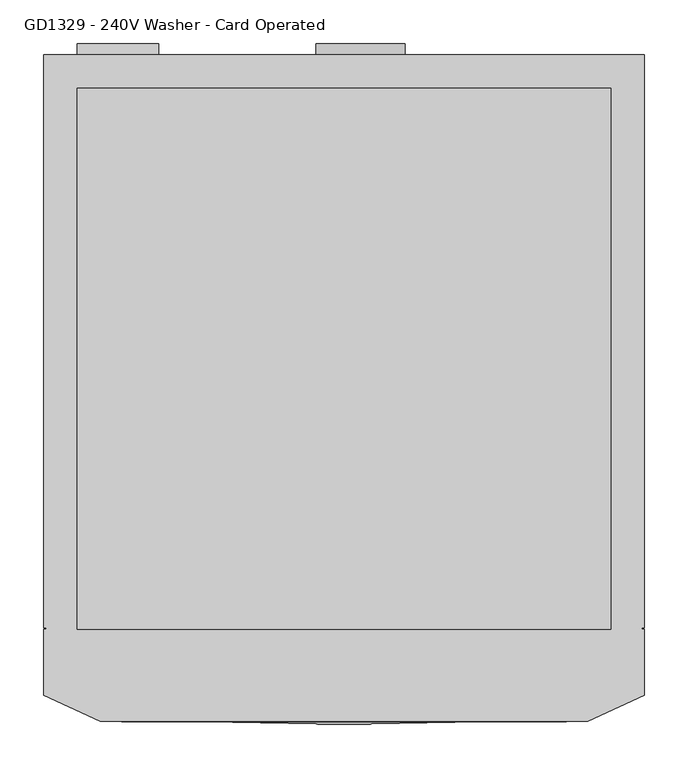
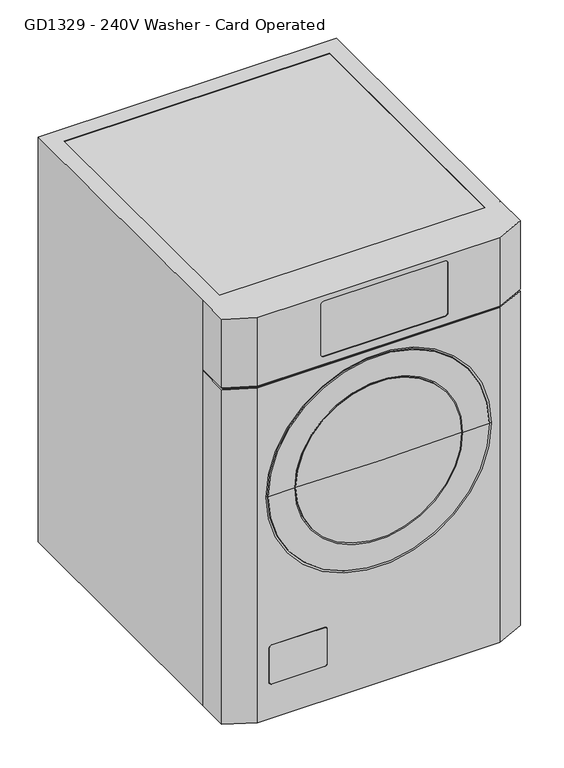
"""IFC4 building model written with IfcOpenShell, lengths in millimetres: proxy geometry, Laundry_Equipment-Dryer-Continental_Girbau-LG_Platinum-Vended-Electric : GD1329 - 240V Washer - Card Operated."""

from ifc_helpers import new_model, si_unit, point, frame, frame_2d, origin, place, context, project, spatial, polyline, circle_curve, ellipse_curve, trimmed, segment, composite_curve, outline, extrude, source, transform, mapped, element, save
from ifc_brep_helpers import plane_surface, cylinder_surface, revolved_surface, advanced_brep


def gd1329_240v_washer_card_operated_20cfbccd(model_context):
    return source(origin(), model_context, "Body", "SolidModel", [
        advanced_brep(
        [(190.5, -380.1381461, 539.7080427), (-190.5, -380.1381461, 539.7080427), (-190.5, -365.8618539, 539.7080427), (190.5, -365.8618539, 539.7080427), (0.0, -383.6523847, 539.7080427), (135.1388173, -229.2539921, 539.7080427), (-135.1388173, -229.2539921, 539.7080427), (0.0, -212.8515534, 539.7080427), (149.7734123, -238.738577, 539.7080427), (-149.7734123, -238.738577, 539.7080427)],
        [
            (0, 1, circle_curve(frame((0.0, -380.1381461, 539.7080427), z_axis=(0.0, 1.0, 0.0), x_axis=(-1.0, 0.0, 0.0)), 190.5)),
            (1, 2),
            (2, 3, circle_curve(frame((0.0, -365.8618539, 539.7080427), z_axis=(0.0, -1.0, 0.0), x_axis=(-1.0, 0.0, 0.0)), 190.5)),
            (3, 0),
            (1, 0, circle_curve(frame((0.0, -380.1381461, 539.7080427), z_axis=(0.0, 1.0, 0.0), x_axis=(-1.0, 0.0, 0.0)), 190.5)),
            (3, 2, circle_curve(frame((0.0, -365.8618539, 539.7080427), z_axis=(0.0, -1.0, 0.0), x_axis=(-1.0, 0.0, 0.0)), 190.5)),
            (4, 1, circle_curve(frame((-3.1754562, 4609.2855804, 539.7080427), z_axis=(0.0, 0.0, -1.0), x_axis=(-1.0, 0.0, 0.0)), 4992.9389749)),
            (0, 4, circle_curve(frame((3.1754562, 4609.2855804, 539.7080427), z_axis=(0.0, 0.0, -1.0), x_axis=(1.0, 0.0, 0.0)), 4992.9389749)),
            (5, 6, circle_curve(frame((0.0, -229.2539921, 539.7080427), z_axis=(0.0, 1.0, 0.0), x_axis=(-1.0, 0.0, 0.0)), 135.1388173)),
            (6, 7, circle_curve(frame((29.3530049, -1019.5913684, 539.7080427), z_axis=(0.0, 0.0, -1.0), x_axis=(-1.0, 0.0, 0.0)), 807.2736388)),
            (7, 5, circle_curve(frame((-29.3530049, -1019.5913684, 539.7080427), z_axis=(0.0, 0.0, -1.0), x_axis=(1.0, 0.0, 0.0)), 807.2736388)),
            (6, 5, circle_curve(frame((0.0, -229.2539921, 539.7080427), z_axis=(0.0, 1.0, 0.0), x_axis=(-1.0, 0.0, 0.0)), 135.1388173)),
            (8, 9, circle_curve(frame((0.0, -238.738577, 539.7080427), z_axis=(0.0, 1.0, 0.0), x_axis=(-1.0, 0.0, 0.0)), 149.7734123)),
            (9, 6, circle_curve(frame((-130.223398, -252.8712124, 539.7080427), z_axis=(0.0, 0.0, -1.0), x_axis=(-1.0, 0.0, 0.0)), 24.1233174)),
            (5, 8, circle_curve(frame((130.223398, -252.8712124, 539.7080427), z_axis=(0.0, 0.0, -1.0), x_axis=(1.0, 0.0, 0.0)), 24.1233174)),
            (9, 8, circle_curve(frame((0.0, -238.738577, 539.7080427), z_axis=(0.0, 1.0, 0.0), x_axis=(-1.0, 0.0, 0.0)), 149.7734123)),
            (2, 9, circle_curve(frame((24.3408368, -364.6051442, 539.7080427), z_axis=(0.0, 0.0, -1.0), x_axis=(-1.0, 0.0, 0.0)), 214.8445124)),
            (8, 3, circle_curve(frame((-24.3408368, -364.6051442, 539.7080427), z_axis=(0.0, 0.0, -1.0), x_axis=(1.0, 0.0, 0.0)), 214.8445124)),
        ],
        [
            cylinder_surface(frame((0.0, 1524.0, 539.7080427), z_axis=(0.0, -1.0, 0.0), x_axis=(-1.0, 0.0, 0.0)), 190.5),
            revolved_surface(trimmed(ellipse_curve(frame((-3.1754562, 4609.2855804, 539.7080427), z_axis=(0.0, 0.0, 1.0), x_axis=(-1.0, 0.0, 0.0)), 4992.9389749, 4992.9389749), [point((-190.5, -380.1381461, 539.7080427))], [point((0.0, -383.6523847, 539.7080427))], True, "CARTESIAN"), (0.0, 1524.0, 539.7080427), (0.0, -1.0, 0.0)),
            revolved_surface(trimmed(ellipse_curve(frame((29.3530049, -1019.5913684, 539.7080427), z_axis=(0.0, 0.0, 1.0), x_axis=(-1.0, 0.0, 0.0)), 807.2736388, 807.2736388), [point((0.0, -212.8515534, 539.7080427))], [point((-135.1388173, -229.2539921, 539.7080427))], True, "CARTESIAN"), (0.0, 1524.0, 539.7080427), (0.0, -1.0, 0.0)),
            revolved_surface(trimmed(ellipse_curve(frame((-130.223398, -252.8712124, 539.7080427), z_axis=(0.0, 0.0, 1.0), x_axis=(-1.0, 0.0, 0.0)), 24.1233174, 24.1233174), [point((-135.1388173, -229.2539921, 539.7080427))], [point((-149.7734123, -238.738577, 539.7080427))], True, "CARTESIAN"), (0.0, 1524.0, 539.7080427), (0.0, -1.0, 0.0)),
            revolved_surface(trimmed(ellipse_curve(frame((24.3408368, -364.6051442, 539.7080427), z_axis=(0.0, 0.0, 1.0), x_axis=(-1.0, 0.0, 0.0)), 214.8445124, 214.8445124), [point((-149.7734123, -238.738577, 539.7080427))], [point((-190.5, -365.8618539, 539.7080427))], True, "CARTESIAN"), (0.0, 1524.0, 539.7080427), (0.0, -1.0, 0.0)),
        ],
        [
            (0, [[1, 2, 3, 4]]),
            (0, [[5, -4, 6, -2]]),
            (1, [[7, -1, 8]]),
            (1, [[-8, -5, -7]]),
            (2, [[9, 10, 11]]),
            (2, [[12, -11, -10]]),
            (3, [[13, 14, -9, 15]]),
            (3, [[16, -15, -12, -14]]),
            (4, [[-3, 17, -13, 18]]),
            (4, [[-6, -18, -16, -17]]),
        ],
    ),
        advanced_brep(
        [(221.85, -365.5, 539.7080427), (-221.85, -365.5, 539.7080427), (-189.8778955, -365.5, 539.7080427), (189.8778955, -365.5, 539.7080427), (254.6932665, -377.9029084, 539.7080427), (-254.6932665, -377.9029084, 539.7080427), (254.1742058, -380.8125, 539.7080427), (-254.1742058, -380.8125, 539.7080427), (193.8479554, -380.8125, 539.7080427), (-193.8479554, -380.8125, 539.7080427), (-189.8778955, -376.6882704, 539.7080427), (189.8778955, -376.6882704, 539.7080427)],
        [
            (0, 1, circle_curve(frame((0.0, -365.5, 539.7080427), z_axis=(0.0, 1.0, 0.0), x_axis=(-1.0, 0.0, 0.0)), 221.85)),
            (1, 2),
            (2, 3, circle_curve(frame((0.0, -365.5, 539.7080427), z_axis=(0.0, -1.0, 0.0), x_axis=(-1.0, 0.0, 0.0)), 189.8778955)),
            (3, 0),
            (1, 0, circle_curve(frame((0.0, -365.5, 539.7080427), z_axis=(0.0, 1.0, 0.0), x_axis=(-1.0, 0.0, 0.0)), 221.85)),
            (3, 2, circle_curve(frame((0.0, -365.5, 539.7080427), z_axis=(0.0, -1.0, 0.0), x_axis=(-1.0, 0.0, 0.0)), 189.8778955)),
            (4, 5, circle_curve(frame((0.0, -377.9029084, 539.7080427), z_axis=(0.0, 1.0, 0.0), x_axis=(-1.0, 0.0, 0.0)), 254.6932665)),
            (5, 1, circle_curve(frame((-200.1145232, -472.7426048, 539.7080427), z_axis=(0.0, 0.0, -1.0), x_axis=(-1.0, 0.0, 0.0)), 109.4230653)),
            (0, 4, circle_curve(frame((200.1145232, -472.7426048, 539.7080427), z_axis=(0.0, 0.0, -1.0), x_axis=(1.0, 0.0, 0.0)), 109.4230653)),
            (5, 4, circle_curve(frame((0.0, -377.9029084, 539.7080427), z_axis=(0.0, 1.0, 0.0), x_axis=(-1.0, 0.0, 0.0)), 254.6932665)),
            (6, 7, circle_curve(frame((0.0, -380.8125, 539.7080427), z_axis=(0.0, 1.0, 0.0), x_axis=(-1.0, 0.0, 0.0)), 254.1742058)),
            (7, 5, circle_curve(frame((-251.0515671, -378.7543374, 539.7080427), z_axis=(0.0, 0.0, -1.0), x_axis=(-1.0, 0.0, 0.0)), 3.7399072)),
            (4, 6, circle_curve(frame((251.0515671, -378.7543374, 539.7080427), z_axis=(0.0, 0.0, -1.0), x_axis=(1.0, 0.0, 0.0)), 3.7399072)),
            (7, 6, circle_curve(frame((0.0, -380.8125, 539.7080427), z_axis=(0.0, 1.0, 0.0), x_axis=(-1.0, 0.0, 0.0)), 254.1742058)),
            (8, 9, circle_curve(frame((0.0, -380.8125, 539.7080427), z_axis=(0.0, 1.0, 0.0), x_axis=(-1.0, 0.0, 0.0)), 193.8479554)),
            (9, 7),
            (6, 8),
            (9, 8, circle_curve(frame((0.0, -380.8125, 539.7080427), z_axis=(0.0, 1.0, 0.0), x_axis=(-1.0, 0.0, 0.0)), 193.8479554)),
            (2, 10),
            (10, 11, circle_curve(frame((0.0, -376.6882704, 539.7080427), z_axis=(0.0, -1.0, 0.0), x_axis=(-1.0, 0.0, 0.0)), 189.8778955)),
            (11, 3),
            (11, 10, circle_curve(frame((0.0, -376.6882704, 539.7080427), z_axis=(0.0, -1.0, 0.0), x_axis=(-1.0, 0.0, 0.0)), 189.8778955)),
            (10, 9, circle_curve(frame((-194.6223258, -376.0941352, 539.7080427), z_axis=(0.0, 0.0, -1.0), x_axis=(-1.0, 0.0, 0.0)), 4.7814868)),
            (8, 11, circle_curve(frame((194.6223258, -376.0941352, 539.7080427), z_axis=(0.0, 0.0, -1.0), x_axis=(1.0, 0.0, 0.0)), 4.7814868)),
        ],
        [
            plane_surface(frame((0.0, -365.5, 539.7080427), z_axis=(0.0, 1.0, 0.0), x_axis=(-1.0, 0.0, 0.0))),
            revolved_surface(trimmed(ellipse_curve(frame((-200.1145232, -472.7426048, 539.7080427), z_axis=(0.0, 0.0, 1.0), x_axis=(-1.0, 0.0, 0.0)), 109.4230653, 109.4230653), [point((-221.85, -365.5, 539.7080427))], [point((-254.6932665, -377.9029084, 539.7080427))], True, "CARTESIAN"), (0.0, 1524.0, 539.7080427), (0.0, -1.0, 0.0)),
            revolved_surface(trimmed(ellipse_curve(frame((-251.0515671, -378.7543374, 539.7080427), z_axis=(0.0, 0.0, 1.0), x_axis=(-1.0, 0.0, 0.0)), 3.7399072, 3.7399072), [point((-254.6932665, -377.9029084, 539.7080427))], [point((-254.1742058, -380.8125, 539.7080427))], True, "CARTESIAN"), (0.0, 1524.0, 539.7080427), (0.0, -1.0, 0.0)),
            plane_surface(frame((0.0, -380.8125, 539.7080427), z_axis=(0.0, -1.0, 0.0), x_axis=(-1.0, 0.0, 0.0))),
            revolved_surface(polyline([(-189.8778955, -376.68827039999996, 539.7080427), (-189.8778955, -365.5, 539.7080427)]), (0.0, 1524.0, 539.7080427), (0.0, -1.0, 0.0)),
            revolved_surface(trimmed(ellipse_curve(frame((-194.6223258, -376.0941352, 539.7080427), z_axis=(0.0, 0.0, 1.0), x_axis=(-1.0, 0.0, 0.0)), 4.7814868, 4.7814868), [point((-193.8479554, -380.8125, 539.7080427))], [point((-189.8778955, -376.6882704, 539.7080427))], True, "CARTESIAN"), (0.0, 1524.0, 539.7080427), (0.0, -1.0, 0.0)),
        ],
        [
            (0, [[1, 2, 3, 4]]),
            (0, [[5, -4, 6, -2]]),
            (1, [[7, 8, -1, 9]]),
            (1, [[10, -9, -5, -8]]),
            (2, [[11, 12, -7, 13]]),
            (2, [[14, -13, -10, -12]]),
            (3, [[15, 16, -11, 17]]),
            (3, [[18, -17, -14, -16]]),
            (4, [[-3, 19, 20, 21]]),
            (4, [[-6, -21, 22, -19]]),
            (5, [[-20, 23, -15, 24]]),
            (5, [[-22, -24, -18, -23]]),
        ],
    ),
        advanced_brep(
        [(343.0, 380.5, 983.0), (-343.0, 380.5, 983.0), (-343.0, -273.5214365, 983.0), (-340.1875, -273.5214365, 983.0), (-340.1875, -275.5, 983.0), (-343.0, -275.5, 983.0), (-343.0, -350.5, 983.0), (-278.6647924, -380.5, 983.0), (278.6647924, -380.5, 983.0), (343.0, -350.5, 983.0), (343.0, -275.5, 983.0), (340.1875, -275.5, 983.0), (340.1875, -273.5214365, 983.0), (343.0, -273.5214365, 983.0), (-304.9, -275.5, 983.0), (-304.9, 342.4, 983.0), (304.9, 342.4, 983.0), (304.9, -275.5, 983.0), (-343.0, 380.5, 0.0), (343.0, 380.5, 0.0), (343.0, -273.5214365, 0.0), (340.1875, -273.5214365, 0.0), (340.1875, -275.5, 0.0), (343.0, -275.5, 0.0), (343.0, -350.5, 0.0), (278.6647924, -380.5, 0.0), (-278.6647924, -380.5, 0.0), (-343.0, -350.5, 0.0), (-343.0, -275.5, 0.0), (-340.1875, -275.5, 0.0), (-340.1875, -273.5214365, 0.0), (-343.0, -273.5214365, 0.0), (-343.0, -350.5, 812.325), (-343.0, -275.5, 812.325), (-343.0, -350.5, 816.7), (-343.0, -275.5, 816.7), (-278.6647924, -380.5, 816.7), (278.6647924, -380.5, 816.7), (-125.6007301, -380.5, 835.1501615), (-132.4491733, -380.5, 841.9986048), (-132.4491733, -380.5, 962.6486048), (-125.6007301, -380.5, 969.497048), (152.2117699, -380.5, 969.497048), (159.0602132, -380.5, 962.6486048), (159.0602132, -380.5, 841.9986048), (152.2117699, -380.5, 835.1501615), (278.6647924, -380.5, 812.325), (-278.6647924, -380.5, 812.325), (258.9763028, -380.5, 539.7080427), (-258.9763028, -380.5, 539.7080427), (-251.4741895, -380.5, 88.3339671), (-251.4741895, -380.5, 170.8839671), (-245.1241895, -380.5, 177.2339671), (-124.4741895, -380.5, 177.2339671), (-118.1241895, -380.5, 170.8839671), (-118.1241895, -380.5, 88.3339671), (-124.4741895, -380.5, 81.9839671), (-245.1241895, -380.5, 81.9839671), (-118.9179395, -380.5, 170.8839671), (-124.4741895, -380.5, 176.4402171), (-245.1241895, -380.5, 176.4402171), (-250.6804395, -380.5, 170.8839671), (-250.6804395, -380.5, 88.3339671), (-245.1241895, -380.5, 82.7777171), (-124.4741895, -380.5, 82.7777171), (-118.9179395, -380.5, 88.3339671), (343.0, -350.5, 812.325), (343.0, -275.5, 812.325), (343.0, -350.5, 816.7), (343.0, -275.5, 816.7), (-221.85, -365.5, 539.7080427), (221.85, -365.5, 539.7080427), (200.0, -365.5, 539.7080427), (-200.0, -365.5, 539.7080427), (340.1875, -275.5, 812.325), (340.1875, -348.7082399, 812.325), (278.0412761, -377.6875, 812.325), (-278.0412761, -377.6875, 812.325), (-340.1875, -348.7082399, 812.325), (-340.1875, -275.5, 812.325), (-340.1875, -275.5, 816.7), (-340.1875, -348.7082399, 816.7), (-278.0412761, -377.6875, 816.7), (278.0412761, -377.6875, 816.7), (340.1875, -348.7082399, 816.7), (340.1875, -275.5, 816.7), (280.0, -246.6460046, 539.7080427), (280.0, 172.6539954, 539.7080427), (-280.0, 172.6539954, 539.7080427), (-280.0, -246.6460046, 539.7080427), (-200.0, -246.6460046, 539.7080427), (200.0, -246.6460046, 539.7080427), (0.0, 172.6539954, 539.7080427), (-251.4741895, -377.5801223, 170.8839671), (-251.4741895, -377.5801223, 88.3339671), (-245.1241895, -377.5801223, 81.9839671), (-124.4741895, -377.5801223, 81.9839671), (-118.1241895, -377.5801223, 88.3339671), (-118.1241895, -377.5801223, 170.8839671), (-124.4741895, -377.5801223, 177.2339671), (-245.1241895, -377.5801223, 177.2339671), (-124.4741895, -377.5801223, 176.4402171), (-118.9179395, -377.5801223, 170.8839671), (-118.9179395, -377.5801223, 88.3339671), (-124.4741895, -377.5801223, 82.7777171), (-245.1241895, -377.5801223, 82.7777171), (-250.6804395, -377.5801223, 88.3339671), (-250.6804395, -377.5801223, 170.8839671), (-245.1241895, -377.5801223, 176.4402171), (-132.4491733, -378.9174653, 841.9986048), (-125.6007301, -378.9174653, 835.1501615), (152.2117699, -378.9174653, 835.1501615), (159.0602132, -378.9174653, 841.9986048), (159.0602132, -378.9174653, 962.6486048), (152.2117699, -378.9174653, 969.497048), (-125.6007301, -378.9174653, 969.497048), (-132.4491733, -378.9174653, 962.6486048), (-304.9, 342.4, 980.8975786), (-304.9, -275.5, 980.8975786), (304.9, -275.5, 980.8975786), (304.9, 342.4, 980.8975786)],
        [
            (0, 1),
            (1, 2),
            (2, 3),
            (3, 4),
            (4, 5),
            (5, 6),
            (6, 7),
            (7, 8),
            (8, 9),
            (9, 10),
            (10, 11),
            (11, 12),
            (12, 13),
            (13, 0),
            (14, 15),
            (15, 16),
            (16, 17),
            (17, 14),
            (18, 19),
            (19, 20),
            (20, 21),
            (21, 22),
            (22, 23),
            (23, 24),
            (24, 25),
            (25, 26),
            (26, 27),
            (27, 28),
            (28, 29),
            (29, 30),
            (30, 31),
            (31, 18),
            (0, 19),
            (18, 1),
            (31, 2),
            (27, 32),
            (32, 33),
            (33, 28),
            (34, 6),
            (5, 35),
            (35, 34),
            (7, 36),
            (36, 37),
            (37, 8),
            (38, 39, circle_curve(frame((-125.6007301, -380.5, 841.9986048), z_axis=(0.0, 1.0, 0.0), x_axis=(1.0, 0.0, 0.0)), 6.8484433)),
            (39, 40),
            (40, 41, circle_curve(frame((-125.6007301, -380.5, 962.6486048), z_axis=(0.0, 1.0, 0.0), x_axis=(1.0, 0.0, 0.0)), 6.8484433)),
            (41, 42),
            (42, 43, circle_curve(frame((152.2117699, -380.5, 962.6486048), z_axis=(0.0, 1.0, 0.0), x_axis=(1.0, 0.0, 0.0)), 6.8484433)),
            (43, 44),
            (44, 45, circle_curve(frame((152.2117699, -380.5, 841.9986048), z_axis=(0.0, 1.0, 0.0), x_axis=(1.0, 0.0, 0.0)), 6.8484433)),
            (45, 38),
            (25, 46),
            (46, 47),
            (47, 26),
            (48, 49, circle_curve(frame((0.0, -380.5, 539.7080427), z_axis=(0.0, 1.0, 0.0), x_axis=(-1.0, 0.0, 0.0)), 258.9763028)),
            (49, 48, circle_curve(frame((0.0, -380.5, 539.7080427), z_axis=(0.0, 1.0, 0.0), x_axis=(-1.0, 0.0, 0.0)), 258.9763028)),
            (50, 51),
            (51, 52, circle_curve(frame((-245.1241895, -380.5, 170.8839671), z_axis=(0.0, 1.0, 0.0), x_axis=(1.0, 0.0, 0.0)), 6.35)),
            (52, 53),
            (53, 54, circle_curve(frame((-124.4741895, -380.5, 170.8839671), z_axis=(0.0, 1.0, 0.0), x_axis=(1.0, 0.0, 0.0)), 6.35)),
            (54, 55),
            (55, 56, circle_curve(frame((-124.4741895, -380.5, 88.3339671), z_axis=(0.0, 1.0, 0.0), x_axis=(1.0, 0.0, 0.0)), 6.35)),
            (56, 57),
            (57, 50, circle_curve(frame((-245.1241895, -380.5, 88.3339671), z_axis=(0.0, 1.0, 0.0), x_axis=(1.0, 0.0, 0.0)), 6.35)),
            (58, 59, circle_curve(frame((-124.4741895, -380.5, 170.8839671), z_axis=(0.0, -1.0, 0.0), x_axis=(1.0, 0.0, 0.0)), 5.55625)),
            (59, 60),
            (60, 61, circle_curve(frame((-245.1241895, -380.5, 170.8839671), z_axis=(0.0, -1.0, 0.0), x_axis=(1.0, 0.0, 0.0)), 5.55625)),
            (61, 62),
            (62, 63, circle_curve(frame((-245.1241895, -380.5, 88.3339671), z_axis=(0.0, -1.0, 0.0), x_axis=(1.0, 0.0, 0.0)), 5.55625)),
            (63, 64),
            (64, 65, circle_curve(frame((-124.4741895, -380.5, 88.3339671), z_axis=(0.0, -1.0, 0.0), x_axis=(1.0, 0.0, 0.0)), 5.55625)),
            (65, 58),
            (13, 20),
            (66, 24),
            (23, 67),
            (67, 66),
            (9, 68),
            (68, 69),
            (69, 10),
            (34, 36),
            (47, 32),
            (37, 68),
            (66, 46),
            (70, 71, circle_curve(frame((0.0, -365.5, 539.7080427), z_axis=(0.0, -1.0, 0.0), x_axis=(-1.0, 0.0, 0.0)), 221.85)),
            (71, 72),
            (72, 73, circle_curve(frame((0.0, -365.5, 539.7080427), z_axis=(0.0, 1.0, 0.0), x_axis=(-1.0, 0.0, 0.0)), 200.0)),
            (73, 70),
            (71, 70, circle_curve(frame((0.0, -365.5, 539.7080427), z_axis=(0.0, -1.0, 0.0), x_axis=(-1.0, 0.0, 0.0)), 221.85)),
            (73, 72, circle_curve(frame((0.0, -365.5, 539.7080427), z_axis=(0.0, 1.0, 0.0), x_axis=(-1.0, 0.0, 0.0)), 200.0)),
            (70, 49, circle_curve(frame((-198.7900404, -476.0208148, 539.7080427), z_axis=(0.0, 0.0, 1.0), x_axis=(-1.0, 0.0, 0.0)), 112.9008957)),
            (48, 71, circle_curve(frame((198.7900404, -476.0208148, 539.7080427), z_axis=(0.0, 0.0, 1.0), x_axis=(1.0, 0.0, 0.0)), 112.9008957)),
            (74, 75),
            (75, 76),
            (76, 77),
            (77, 78),
            (78, 79),
            (79, 33),
            (67, 74),
            (80, 81),
            (81, 82),
            (82, 83),
            (83, 84),
            (84, 85),
            (85, 69),
            (35, 80),
            (78, 81),
            (80, 4),
            (3, 30),
            (29, 79),
            (77, 82),
            (76, 83),
            (75, 84),
            (74, 22),
            (21, 12),
            (11, 85),
            (86, 87),
            (87, 88, circle_curve(frame((0.0, 172.6539954, 539.7080427), z_axis=(0.0, 1.0, 0.0), x_axis=(-1.0, 0.0, 0.0)), 280.0)),
            (88, 89),
            (89, 86, circle_curve(frame((0.0, -246.6460046, 539.7080427), z_axis=(0.0, -1.0, 0.0), x_axis=(-1.0, 0.0, 0.0)), 280.0)),
            (86, 89, circle_curve(frame((0.0, -246.6460046, 539.7080427), z_axis=(0.0, -1.0, 0.0), x_axis=(-1.0, 0.0, 0.0)), 280.0)),
            (88, 87, circle_curve(frame((0.0, 172.6539954, 539.7080427), z_axis=(0.0, 1.0, 0.0), x_axis=(-1.0, 0.0, 0.0)), 280.0)),
            (89, 90),
            (90, 91, circle_curve(frame((0.0, -246.6460046, 539.7080427), z_axis=(0.0, -1.0, 0.0), x_axis=(-1.0, 0.0, 0.0)), 200.0)),
            (91, 86),
            (91, 90, circle_curve(frame((0.0, -246.6460046, 539.7080427), z_axis=(0.0, -1.0, 0.0), x_axis=(-1.0, 0.0, 0.0)), 200.0)),
            (90, 73),
            (72, 91),
            (87, 92),
            (92, 88),
            (93, 94),
            (94, 95, circle_curve(frame((-245.1241895, -377.5801223, 88.3339671), z_axis=(0.0, -1.0, 0.0), x_axis=(1.0, 0.0, 0.0)), 6.35)),
            (95, 96),
            (96, 97, circle_curve(frame((-124.4741895, -377.5801223, 88.3339671), z_axis=(0.0, -1.0, 0.0), x_axis=(1.0, 0.0, 0.0)), 6.35)),
            (97, 98),
            (98, 99, circle_curve(frame((-124.4741895, -377.5801223, 170.8839671), z_axis=(0.0, -1.0, 0.0), x_axis=(1.0, 0.0, 0.0)), 6.35)),
            (99, 100),
            (100, 93, circle_curve(frame((-245.1241895, -377.5801223, 170.8839671), z_axis=(0.0, -1.0, 0.0), x_axis=(1.0, 0.0, 0.0)), 6.35)),
            (101, 102, circle_curve(frame((-124.4741895, -377.5801223, 170.8839671), z_axis=(0.0, 1.0, 0.0), x_axis=(1.0, 0.0, 0.0)), 5.55625)),
            (102, 103),
            (103, 104, circle_curve(frame((-124.4741895, -377.5801223, 88.3339671), z_axis=(0.0, 1.0, 0.0), x_axis=(1.0, 0.0, 0.0)), 5.55625)),
            (104, 105),
            (105, 106, circle_curve(frame((-245.1241895, -377.5801223, 88.3339671), z_axis=(0.0, 1.0, 0.0), x_axis=(1.0, 0.0, 0.0)), 5.55625)),
            (106, 107),
            (107, 108, circle_curve(frame((-245.1241895, -377.5801223, 170.8839671), z_axis=(0.0, 1.0, 0.0), x_axis=(1.0, 0.0, 0.0)), 5.55625)),
            (108, 101),
            (93, 51),
            (50, 94),
            (57, 95),
            (56, 96),
            (55, 97),
            (54, 98),
            (53, 99),
            (52, 100),
            (101, 59),
            (58, 102),
            (65, 103),
            (64, 104),
            (63, 105),
            (62, 106),
            (61, 107),
            (60, 108),
            (109, 110, circle_curve(frame((-125.6007301, -378.9174653, 841.9986048), z_axis=(0.0, -1.0, 0.0), x_axis=(1.0, 0.0, 0.0)), 6.8484433)),
            (110, 111),
            (111, 112, circle_curve(frame((152.2117699, -378.9174653, 841.9986048), z_axis=(0.0, -1.0, 0.0), x_axis=(1.0, 0.0, 0.0)), 6.8484433)),
            (112, 113),
            (113, 114, circle_curve(frame((152.2117699, -378.9174653, 962.6486048), z_axis=(0.0, -1.0, 0.0), x_axis=(1.0, 0.0, 0.0)), 6.8484433)),
            (114, 115),
            (115, 116, circle_curve(frame((-125.6007301, -378.9174653, 962.6486048), z_axis=(0.0, -1.0, 0.0), x_axis=(1.0, 0.0, 0.0)), 6.8484433)),
            (116, 109),
            (109, 39),
            (38, 110),
            (45, 111),
            (44, 112),
            (43, 113),
            (42, 114),
            (41, 115),
            (40, 116),
            (117, 118),
            (118, 119),
            (119, 120),
            (120, 117),
            (117, 15),
            (14, 118),
            (17, 119),
            (16, 120),
        ],
        [
            plane_surface(frame((-343.0, 380.5, 983.0), z_axis=(0.0, 0.0, 1.0), x_axis=(-1.0, 0.0, 0.0))),
            plane_surface(frame((-343.0, 380.5, 0.0), z_axis=(0.0, 0.0, -1.0), x_axis=(1.0, 0.0, 0.0))),
            plane_surface(frame((343.0, 380.5, 983.0), z_axis=(0.0, 1.0, 0.0), x_axis=(0.0, 0.0, -1.0))),
            plane_surface(frame((-343.0, 380.5, 983.0), z_axis=(-1.0, 0.0, 0.0), x_axis=(0.0, 0.0, -1.0))),
            plane_surface(frame((-343.0, -380.5, 983.0), z_axis=(0.0, -1.0, 0.0), x_axis=(0.0, 0.0, -1.0))),
            plane_surface(frame((343.0, -380.5, 983.0), z_axis=(1.0, 0.0, 0.0), x_axis=(0.0, 0.0, -1.0))),
            plane_surface(frame((-278.6647924, -380.5, 983.0), z_axis=(-0.4226182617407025, -0.9063077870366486, 0.0), x_axis=(0.0, 0.0, -1.0))),
            plane_surface(frame((343.0, -350.5, 983.0), z_axis=(0.42261826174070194, -0.9063077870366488, 0.0), x_axis=(0.0, 0.0, -1.0))),
            plane_surface(frame((0.0, -365.5, 539.7080427), z_axis=(0.0, -1.0, 0.0), x_axis=(-1.0, 0.0, 0.0))),
            revolved_surface(trimmed(ellipse_curve(frame((-198.7900404, -476.0208148, 539.7080427), z_axis=(0.0, 0.0, -1.0), x_axis=(-1.0, 0.0, 0.0)), 112.9008957, 112.9008957), [point((-258.9763028, -380.5, 539.7080427))], [point((-221.85, -365.5, 539.7080427))], True, "CARTESIAN"), (0.0, 1524.0, 539.7080427), (0.0, -1.0, 0.0)),
            plane_surface(frame((-340.1875, -275.5, 812.325), z_axis=(0.0, 0.0, 1.0), x_axis=(0.0, -1.0, 0.0))),
            plane_surface(frame((-343.0, -275.5, 816.7), z_axis=(0.0, 0.0, -1.0), x_axis=(0.0, -1.0, 0.0))),
            plane_surface(frame((-340.1875, -275.5, 816.7), z_axis=(-1.0, 0.0, 0.0), x_axis=(0.0, -1.0, 0.0))),
            plane_surface(frame((-340.1875, -348.7082399, 816.7), z_axis=(-0.42261826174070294, -0.9063077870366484, 0.0), x_axis=(0.9063077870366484, -0.42261826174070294, 0.0))),
            plane_surface(frame((-278.0412761, -377.6875, 816.7), z_axis=(0.0, -1.0, 0.0), x_axis=(1.0, 0.0, 0.0))),
            plane_surface(frame((278.0412761, -377.6875, 816.7), z_axis=(0.4226182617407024, -0.9063077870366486, 0.0), x_axis=(0.9063077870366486, 0.4226182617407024, 0.0))),
            plane_surface(frame((340.1875, -348.7082399, 816.7), z_axis=(1.0, 0.0, 0.0), x_axis=(0.0, 1.0, 0.0))),
            plane_surface(frame((-340.1875, -273.5214365, 983.0), z_axis=(0.0, -1.0, 0.0), x_axis=(0.0, 0.0, -1.0))),
            plane_surface(frame((-343.0, -275.5, 983.0), z_axis=(0.0, 1.0, 0.0), x_axis=(0.0, 0.0, -1.0))),
            plane_surface(frame((340.1875, -275.5, 983.0), z_axis=(0.0, 1.0, 0.0), x_axis=(0.0, 0.0, -1.0))),
            plane_surface(frame((343.0, -273.5214365, 983.0), z_axis=(0.0, -1.0, 0.0), x_axis=(0.0, 0.0, -1.0))),
            revolved_surface(polyline([(-280.0, -246.64600459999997, 539.7080427), (-280.0, 172.65399539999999, 539.7080427)]), (0.0, 1524.0, 539.7080427), (0.0, -1.0, 0.0)),
            plane_surface(frame((0.0, -246.6460046, 539.7080427), z_axis=(0.0, 1.0, 0.0), x_axis=(-1.0, 0.0, 0.0))),
            revolved_surface(polyline([(-200.0, -365.5, 539.7080427), (-200.0, -246.64600459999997, 539.7080427)]), (0.0, 1524.0, 539.7080427), (0.0, -1.0, 0.0)),
            plane_surface(frame((0.0, 172.6539954, 539.7080427), z_axis=(0.0, -1.0, 0.0), x_axis=(-1.0, 0.0, 0.0))),
            plane_surface(frame((-251.4741895, -377.5801223, 88.3339671), z_axis=(0.0, -1.0, 0.0), x_axis=(0.0, 0.0, 1.0))),
            plane_surface(frame((-251.4741895, -380.5, 170.8839671), z_axis=(1.0, 0.0, 0.0), x_axis=(0.0, 1.0, 0.0))),
            revolved_surface(polyline([(-238.7741895, -380.5, 88.3339671), (-238.7741895, -377.5801223, 88.3339671)]), (-245.1241895, -377.5801223, 88.3339671), (0.0, -1.0, 0.0)),
            plane_surface(frame((-245.1241895, -380.5, 81.9839671), z_axis=(0.0, 0.0, 1.0), x_axis=(0.0, 1.0, 0.0))),
            revolved_surface(polyline([(-118.1241895, -380.5, 88.3339671), (-118.1241895, -377.5801223, 88.3339671)]), (-124.4741895, -377.5801223, 88.3339671), (0.0, -1.0, 0.0)),
            plane_surface(frame((-118.1241895, -380.5, 88.3339671), z_axis=(-1.0, 0.0, 0.0), x_axis=(0.0, 1.0, 0.0))),
            revolved_surface(polyline([(-118.1241895, -380.5, 170.8839671), (-118.1241895, -377.5801223, 170.8839671)]), (-124.4741895, -377.5801223, 170.8839671), (0.0, -1.0, 0.0)),
            plane_surface(frame((-124.4741895, -380.5, 177.2339671), z_axis=(0.0, 0.0, -1.0), x_axis=(0.0, 1.0, 0.0))),
            revolved_surface(polyline([(-238.7741895, -380.5, 170.8839671), (-238.7741895, -377.5801223, 170.8839671)]), (-245.1241895, -377.5801223, 170.8839671), (0.0, -1.0, 0.0)),
            cylinder_surface(frame((-124.4741895, 0.0, 170.8839671), z_axis=(0.0, 1.0, 0.0), x_axis=(1.0, 0.0, 0.0)), 5.55625),
            plane_surface(frame((-118.9179395, -380.5, 170.8839671), z_axis=(1.0, 0.0, 0.0), x_axis=(0.0, 1.0, 0.0))),
            cylinder_surface(frame((-124.4741895, 0.0, 88.3339671), z_axis=(0.0, 1.0, 0.0), x_axis=(1.0, 0.0, 0.0)), 5.55625),
            plane_surface(frame((-124.4741895, -380.5, 82.7777171), z_axis=(0.0, 0.0, -1.0), x_axis=(0.0, 1.0, 0.0))),
            cylinder_surface(frame((-245.1241895, 0.0, 88.3339671), z_axis=(0.0, 1.0, 0.0), x_axis=(1.0, 0.0, 0.0)), 5.55625),
            plane_surface(frame((-250.6804395, -380.5, 88.3339671), z_axis=(-1.0, 0.0, 0.0), x_axis=(0.0, 1.0, 0.0))),
            cylinder_surface(frame((-245.1241895, 0.0, 170.8839671), z_axis=(0.0, 1.0, 0.0), x_axis=(1.0, 0.0, 0.0)), 5.55625),
            plane_surface(frame((-245.1241895, -380.5, 176.4402171), z_axis=(0.0, 0.0, 1.0), x_axis=(0.0, 1.0, 0.0))),
            plane_surface(frame((-118.7522868, -378.9174653, 841.9986048), z_axis=(0.0, -1.0, 0.0), x_axis=(0.0, 0.0, -1.0))),
            revolved_surface(polyline([(-118.75228680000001, -380.5, 841.9986048), (-118.75228680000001, -378.9174653, 841.9986048)]), (-125.6007301, -378.9174653, 841.9986048), (0.0, -1.0, 0.0)),
            plane_surface(frame((-125.6007301, -657.427201, 835.1501615), z_axis=(0.0, 0.0, 1.0), x_axis=(0.0, 1.0, 0.0))),
            revolved_surface(polyline([(159.06021320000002, -380.5, 841.9986048), (159.06021320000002, -378.9174653, 841.9986048)]), (152.2117699, -378.9174653, 841.9986048), (0.0, -1.0, 0.0)),
            plane_surface(frame((159.0602132, -657.427201, 841.9986048), z_axis=(-1.0, 0.0, 0.0), x_axis=(0.0, 1.0, 0.0))),
            revolved_surface(polyline([(159.06021320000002, -380.5, 962.6486048), (159.06021320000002, -378.9174653, 962.6486048)]), (152.2117699, -378.9174653, 962.6486048), (0.0, -1.0, 0.0)),
            plane_surface(frame((152.2117699, -657.427201, 969.497048), z_axis=(0.0, 0.0, -1.0), x_axis=(0.0, 1.0, 0.0))),
            revolved_surface(polyline([(-118.75228680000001, -380.5, 962.6486048), (-118.75228680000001, -378.9174653, 962.6486048)]), (-125.6007301, -378.9174653, 962.6486048), (0.0, -1.0, 0.0)),
            plane_surface(frame((-132.4491733, -657.427201, 962.6486048), z_axis=(1.0, 0.0, 0.0), x_axis=(0.0, 1.0, 0.0))),
            plane_surface(frame((-304.9, 380.5, 980.8975786), z_axis=(0.0, 0.0, 1.0), x_axis=(0.0, 1.0, 0.0))),
            plane_surface(frame((-304.9, 342.4, 1194.3190311), z_axis=(1.0, 0.0, 0.0), x_axis=(0.0, 0.0, -1.0))),
            plane_surface(frame((-304.9, -275.5, 1194.3190311), z_axis=(0.0, 1.0, 0.0), x_axis=(0.0, 0.0, -1.0))),
            plane_surface(frame((304.9, -275.5, 1194.3190311), z_axis=(-1.0, 0.0, 0.0), x_axis=(0.0, 0.0, -1.0))),
            plane_surface(frame((304.9, 342.4, 1194.3190311), z_axis=(0.0, -1.0, 0.0), x_axis=(0.0, 0.0, -1.0))),
        ],
        [
            (0, [[1, 2, 3, 4, 5, 6, 7, 8, 9, 10, 11, 12, 13, 14], [15, 16, 17, 18]]),
            (1, [[19, 20, 21, 22, 23, 24, 25, 26, 27, 28, 29, 30, 31, 32]]),
            (2, [[-1, 33, -19, 34]]),
            (3, [[-34, -32, 35, -2]]),
            (3, [[36, 37, 38, -28]]),
            (3, [[39, -6, 40, 41]]),
            (4, [[-8, 42, 43, 44], [45, 46, 47, 48, 49, 50, 51, 52]]),
            (4, [[-26, 53, 54, 55], [56, 57], [58, 59, 60, 61, 62, 63, 64, 65]]),
            (4, [[66, 67, 68, 69, 70, 71, 72, 73]]),
            (5, [[-33, -14, 74, -20]]),
            (5, [[75, -24, 76, 77]]),
            (5, [[78, 79, 80, -10]]),
            (6, [[-7, -39, 81, -42]]),
            (6, [[-27, -55, 82, -36]]),
            (7, [[-9, -44, 83, -78]]),
            (7, [[-25, -75, 84, -53]]),
            (8, [[85, 86, 87, 88]]),
            (8, [[89, -88, 90, -86]]),
            (9, [[-85, 91, -56, 92]]),
            (9, [[-89, -92, -57, -91]]),
            (10, [[93, 94, 95, 96, 97, 98, -37, -82, -54, -84, -77, 99]]),
            (11, [[100, 101, 102, 103, 104, 105, -79, -83, -43, -81, -41, 106]]),
            (12, [[-97, 107, -100, 108, -4, 109, -30, 110]]),
            (13, [[-96, 111, -101, -107]]),
            (14, [[-95, 112, -102, -111]]),
            (15, [[-94, 113, -103, -112]]),
            (16, [[-93, 114, -22, 115, -12, 116, -104, -113]]),
            (17, [[-109, -3, -35, -31]]),
            (18, [[-108, -106, -40, -5]]),
            (18, [[-110, -29, -38, -98]]),
            (19, [[-114, -99, -76, -23]]),
            (19, [[-116, -11, -80, -105]]),
            (20, [[-115, -21, -74, -13]]),
            (21, [[117, 118, 119, 120]]),
            (21, [[-117, 121, -119, 122]]),
            (22, [[-120, 123, 124, 125]]),
            (22, [[-121, -125, 126, -123]]),
            (23, [[-124, 127, -87, 128]]),
            (23, [[-126, -128, -90, -127]]),
            (24, [[-118, 129, 130]]),
            (24, [[-122, -130, -129]]),
            (25, [[131, 132, 133, 134, 135, 136, 137, 138], [139, 140, 141, 142, 143, 144, 145, 146]]),
            (26, [[-131, 147, -58, 148]]),
            (27, [[-132, -148, -65, 149]]),
            (28, [[-133, -149, -64, 150]]),
            (29, [[-134, -150, -63, 151]]),
            (30, [[-135, -151, -62, 152]]),
            (31, [[-136, -152, -61, 153]]),
            (32, [[-137, -153, -60, 154]]),
            (33, [[-138, -154, -59, -147]]),
            (34, [[-139, 155, -66, 156]]),
            (35, [[-140, -156, -73, 157]]),
            (36, [[-141, -157, -72, 158]]),
            (37, [[-142, -158, -71, 159]]),
            (38, [[-143, -159, -70, 160]]),
            (39, [[-144, -160, -69, 161]]),
            (40, [[-145, -161, -68, 162]]),
            (41, [[-146, -162, -67, -155]]),
            (42, [[163, 164, 165, 166, 167, 168, 169, 170]]),
            (43, [[-163, 171, -45, 172]]),
            (44, [[-164, -172, -52, 173]]),
            (45, [[-165, -173, -51, 174]]),
            (46, [[-166, -174, -50, 175]]),
            (47, [[-167, -175, -49, 176]]),
            (48, [[-168, -176, -48, 177]]),
            (49, [[-169, -177, -47, 178]]),
            (50, [[-170, -178, -46, -171]]),
            (51, [[179, 180, 181, 182]]),
            (52, [[-179, 183, -15, 184]]),
            (53, [[-180, -184, -18, 185]]),
            (54, [[-181, -185, -17, 186]]),
            (55, [[-182, -186, -16, -183]]),
        ],
    ),
        extrude(outline(composite_curve([segment(trimmed(circle_curve(frame_2d((104.775, 18.95)), 50.8), [point((104.775, -31.85))], [point((104.775, 69.75))], False, "CARTESIAN"), True, "CONTINUOUS"), segment(trimmed(circle_curve(frame_2d((104.775, 18.95)), 50.8), [point((104.775, 69.75))], [point((104.775, -31.85))], False, "CARTESIAN"), True, "CONTINUOUS")], self_intersect=False)), frame((0.0, 380.5, 0.0), z_axis=(0.0, 1.0, 0.0), x_axis=(0.0, 0.0, 1.0)), (0.0, 0.0, 1.0), 12.7),
        extrude(outline(polyline([(-211.9152708, 380.5), (-304.9, 380.5), (-304.9, 393.2), (-211.9152708, 393.2), (-211.9152708, 380.5)])), frame((0.0, 0.0, 900.2663463), z_axis=(0.0, 0.0, 1.0), x_axis=(1.0, 0.0, 0.0)), (0.0, 0.0, 1.0), 52.710208),
    ])


if __name__ == "__main__":
    model = new_model("IFC4")
    model_context = context("Model", 3, world=origin())
    ifc_project = project(units=[si_unit("LENGTHUNIT", "METRE", prefix="MILLI")], contexts=[model_context])
    site = spatial("IfcSite", under=ifc_project)
    building = spatial("IfcBuilding", under=site)
    placement = place(None, origin())
    gd1329_240v_washer_card_operated_shape = gd1329_240v_washer_card_operated_20cfbccd(model_context)
    element("IfcBuildingElementProxy", 1, Name="Laundry_Equipment-Dryer-Continental_Girbau-LG_Platinum-Vended-Electric : GD1329 - 240V Washer - Card Operated", ObjectType="Laundry_Equipment-Dryer-Continental_Girbau-LG_Platinum-Vended-Electric : GD1329 - 240V Washer - Card Operated", at=placement, inside=building, context=model_context, shape_type="MappedRepresentation", body=[
        mapped(gd1329_240v_washer_card_operated_shape, transform((0.0, 0.0, 0.0), x_axis=(1.0, 0.0, 0.0), y_axis=(0.0, 1.0, 0.0), z_axis=(0.0, 0.0, 1.0))),
    ])
    save(model, "model.ifc")
